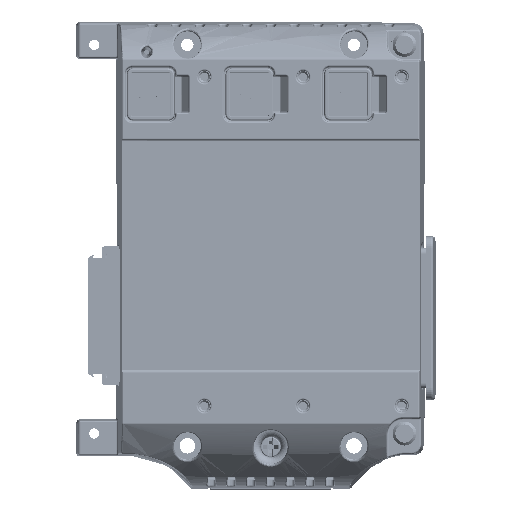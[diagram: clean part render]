
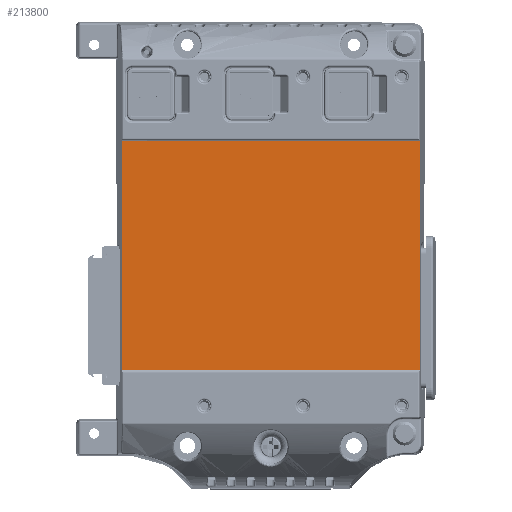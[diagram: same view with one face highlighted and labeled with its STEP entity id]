
A CAD part, front view. The second image highlights one B-rep face of the part: STEP entity #213800.
In plain terms, the highlighted planar face has unit normal (0, -1, 0).
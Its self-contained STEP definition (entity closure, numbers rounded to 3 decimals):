
#11906=LINE('',#299058,#31496);
#12205=LINE('',#300847,#31795);
#12516=LINE('',#304033,#32106);
#12517=LINE('',#304034,#32107);
#31496=VECTOR('',#244837,1000.);
#31795=VECTOR('',#245454,1000.);
#32106=VECTOR('',#246527,1000.);
#32107=VECTOR('',#246528,1000.);
#57784=ORIENTED_EDGE('',*,*,#106546,.T.);
#57785=ORIENTED_EDGE('',*,*,#105386,.T.);
#57786=ORIENTED_EDGE('',*,*,#106547,.T.);
#57787=ORIENTED_EDGE('',*,*,#105912,.T.);
#105386=EDGE_CURVE('',#130513,#130512,#11906,.F.);
#105912=EDGE_CURVE('',#130928,#130945,#12205,.F.);
#106546=EDGE_CURVE('',#130945,#130513,#12516,.T.);
#106547=EDGE_CURVE('',#130512,#130928,#12517,.T.);
#130512=VERTEX_POINT('',#299057);
#130513=VERTEX_POINT('',#299059);
#130928=VERTEX_POINT('',#300811);
#130945=VERTEX_POINT('',#300846);
#147474=EDGE_LOOP('',(#57784,#57785,#57786,#57787));
#158860=FACE_BOUND('',#147474,.T.);
#169108=PLANE('',#226174);
#213800=ADVANCED_FACE('',(#158860),#169108,.T.);
#226174=AXIS2_PLACEMENT_3D('',#304032,#246525,#246526);
#244837=DIRECTION('',(0.,0.,1.));
#245454=DIRECTION('',(0.,0.,-1.));
#246525=DIRECTION('',(0.,-1.,0.));
#246526=DIRECTION('',(0.,0.,-1.));
#246527=DIRECTION('',(-1.,0.,0.));
#246528=DIRECTION('',(1.,0.,0.));
#299057=CARTESIAN_POINT('',(-50.067,-25.49,-42.245));
#299058=CARTESIAN_POINT('',(-50.067,-25.49,-6.04));
#299059=CARTESIAN_POINT('',(-50.067,-25.49,31.755));
#300811=CARTESIAN_POINT('',(46.52,-25.49,-42.245));
#300846=CARTESIAN_POINT('',(46.52,-25.49,31.755));
#300847=CARTESIAN_POINT('',(46.52,-25.49,-65.473));
#304032=CARTESIAN_POINT('',(0.,-25.49,0.));
#304033=CARTESIAN_POINT('',(0.,-25.49,31.755));
#304034=CARTESIAN_POINT('',(0.,-25.49,-42.245));
